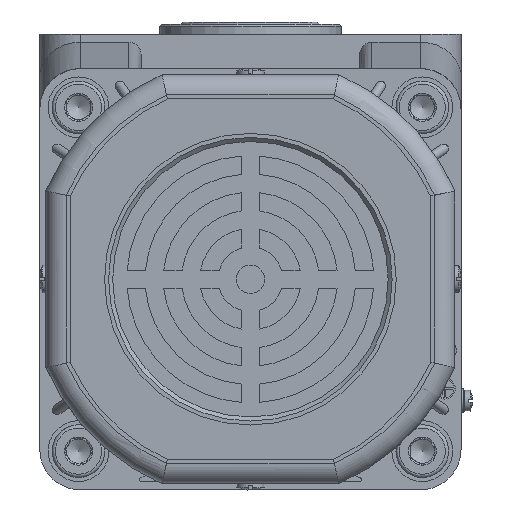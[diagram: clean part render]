
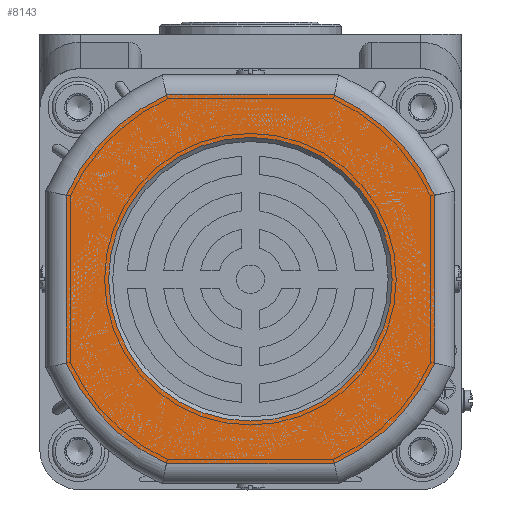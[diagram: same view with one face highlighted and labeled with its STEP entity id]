
A CAD part, left-side view. The second image highlights one B-rep face of the part: STEP entity #8143.
In plain terms, the highlighted planar face has unit normal (-1, 0, 0).
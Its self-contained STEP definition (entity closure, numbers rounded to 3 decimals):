
#1645=LINE('',#48414,#3283);
#1646=LINE('',#48419,#3284);
#1647=LINE('',#48423,#3285);
#1648=LINE('',#48427,#3286);
#3283=VECTOR('',#37295,1.);
#3284=VECTOR('',#37298,1.);
#3285=VECTOR('',#37301,1.);
#3286=VECTOR('',#37304,1.);
#5366=PLANE('',#31242);
#6824=FACE_BOUND('',#11593,.T.);
#6825=FACE_BOUND('',#11594,.T.);
#8143=ADVANCED_FACE('',(#6824,#6825),#5366,.F.);
#11593=EDGE_LOOP('',(#17185));
#11594=EDGE_LOOP('',(#17186,#17187,#17188,#17189,#17190,#17191,#17192,#17193));
#17185=ORIENTED_EDGE('',*,*,#25744,.T.);
#17186=ORIENTED_EDGE('',*,*,#25745,.T.);
#17187=ORIENTED_EDGE('',*,*,#25746,.T.);
#17188=ORIENTED_EDGE('',*,*,#25747,.T.);
#17189=ORIENTED_EDGE('',*,*,#25748,.T.);
#17190=ORIENTED_EDGE('',*,*,#25749,.T.);
#17191=ORIENTED_EDGE('',*,*,#25750,.T.);
#17192=ORIENTED_EDGE('',*,*,#25751,.T.);
#17193=ORIENTED_EDGE('',*,*,#25752,.T.);
#22210=VERTEX_POINT('',#48413);
#22211=VERTEX_POINT('',#48415);
#22212=VERTEX_POINT('',#48416);
#22213=VERTEX_POINT('',#48418);
#22214=VERTEX_POINT('',#48420);
#22215=VERTEX_POINT('',#48422);
#22216=VERTEX_POINT('',#48424);
#22217=VERTEX_POINT('',#48426);
#22218=VERTEX_POINT('',#48428);
#25744=EDGE_CURVE('',#22210,#22210,#28665,.T.);
#25745=EDGE_CURVE('',#22211,#22212,#1645,.T.);
#25746=EDGE_CURVE('',#22212,#22213,#28666,.T.);
#25747=EDGE_CURVE('',#22213,#22214,#1646,.T.);
#25748=EDGE_CURVE('',#22214,#22215,#28667,.T.);
#25749=EDGE_CURVE('',#22215,#22216,#1647,.T.);
#25750=EDGE_CURVE('',#22216,#22217,#28668,.T.);
#25751=EDGE_CURVE('',#22217,#22218,#1648,.T.);
#25752=EDGE_CURVE('',#22218,#22211,#28669,.T.);
#28665=CIRCLE('',#31237,35.);
#28666=CIRCLE('',#31238,50.);
#28667=CIRCLE('',#31239,50.);
#28668=CIRCLE('',#31240,50.);
#28669=CIRCLE('',#31241,50.);
#31237=AXIS2_PLACEMENT_3D('',#48412,#37293,#37294);
#31238=AXIS2_PLACEMENT_3D('',#48417,#37296,#37297);
#31239=AXIS2_PLACEMENT_3D('',#48421,#37299,#37300);
#31240=AXIS2_PLACEMENT_3D('',#48425,#37302,#37303);
#31241=AXIS2_PLACEMENT_3D('',#48429,#37305,#37306);
#31242=AXIS2_PLACEMENT_3D('',#48430,#37307,#37308);
#37293=DIRECTION('',(1.,0.,0.));
#37294=DIRECTION('',(0.,-1.,0.));
#37295=DIRECTION('',(0.,-1.,0.));
#37296=DIRECTION('',(-1.,0.,0.));
#37297=DIRECTION('',(0.,0.,1.));
#37298=DIRECTION('',(0.,0.,1.));
#37299=DIRECTION('',(-1.,0.,0.));
#37300=DIRECTION('',(0.,0.,1.));
#37301=DIRECTION('',(0.,1.,0.));
#37302=DIRECTION('',(-1.,0.,0.));
#37303=DIRECTION('',(0.,0.,1.));
#37304=DIRECTION('',(0.,0.,-1.));
#37305=DIRECTION('',(-1.,0.,0.));
#37306=DIRECTION('',(0.,0.,1.));
#37307=DIRECTION('',(1.,0.,0.));
#37308=DIRECTION('',(0.,0.,1.));
#48412=CARTESIAN_POINT('',(-269.8,-120.671,-58.491));
#48413=CARTESIAN_POINT('',(-269.8,-155.671,-58.491));
#48414=CARTESIAN_POINT('',(-269.8,-142.46,-103.991));
#48415=CARTESIAN_POINT('',(-269.8,-99.941,-103.991));
#48416=CARTESIAN_POINT('',(-269.8,-141.402,-103.991));
#48417=CARTESIAN_POINT('',(-269.8,-120.671,-58.491));
#48418=CARTESIAN_POINT('',(-269.8,-166.171,-79.221));
#48419=CARTESIAN_POINT('',(-269.8,-166.171,-36.702));
#48420=CARTESIAN_POINT('',(-269.8,-166.171,-37.76));
#48421=CARTESIAN_POINT('',(-269.8,-120.671,-58.491));
#48422=CARTESIAN_POINT('',(-269.8,-141.402,-12.991));
#48423=CARTESIAN_POINT('',(-269.8,-98.882,-12.991));
#48424=CARTESIAN_POINT('',(-269.8,-99.941,-12.991));
#48425=CARTESIAN_POINT('',(-269.8,-120.671,-58.491));
#48426=CARTESIAN_POINT('',(-269.8,-75.171,-37.76));
#48427=CARTESIAN_POINT('',(-269.8,-75.171,-80.28));
#48428=CARTESIAN_POINT('',(-269.8,-75.171,-79.221));
#48429=CARTESIAN_POINT('',(-269.8,-120.671,-58.491));
#48430=CARTESIAN_POINT('',(-269.8,-120.671,-58.491));
